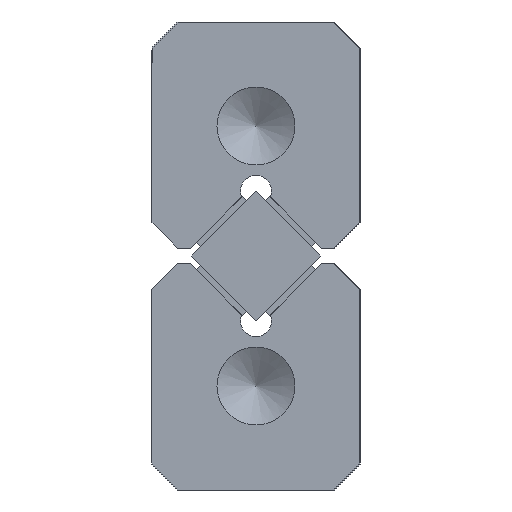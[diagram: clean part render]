
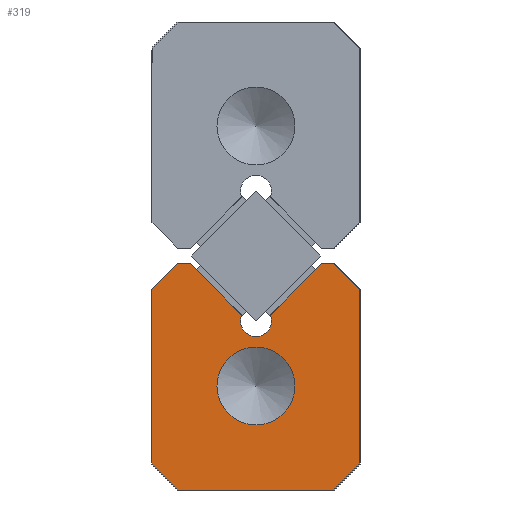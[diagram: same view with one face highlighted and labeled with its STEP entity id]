
A CAD part, left-side view. The second image highlights one B-rep face of the part: STEP entity #319.
In plain terms, the highlighted planar face has unit normal (-1, 0, 0).
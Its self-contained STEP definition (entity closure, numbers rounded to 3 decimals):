
#98=CARTESIAN_POINT('',(0.0,-3.,5.2));
#99=VERTEX_POINT('',#98);
#106=CARTESIAN_POINT('',(0.0,-4.0,4.2));
#107=VERTEX_POINT('',#106);
#108=CARTESIAN_POINT('',(0.0,-3.,5.2));
#109=DIRECTION('',(0.0,-0.707,-0.707));
#110=VECTOR('',#109,1.414);
#111=LINE('',#108,#110);
#112=EDGE_CURVE('',#99,#107,#111,.T.);
#129=CARTESIAN_POINT('',(0.0,-4.0,-2.5));
#130=VERTEX_POINT('',#129);
#131=CARTESIAN_POINT('',(0.0,-4.0,4.2));
#132=DIRECTION('',(0.0,0.0,-1.0));
#133=VECTOR('',#132,6.7);
#134=LINE('',#131,#133);
#135=EDGE_CURVE('',#107,#130,#134,.T.);
#220=CARTESIAN_POINT('',(0.0,0.,0.885));
#221=DIRECTION('',(1.0,0.0,0.0));
#222=DIRECTION('',(0.0,0.0,-1.0));
#223=AXIS2_PLACEMENT_3D('',#220,#221,#222);
#224=PLANE('',#223);
#225=ORIENTED_EDGE('',*,*,#112,.F.);
#226=CARTESIAN_POINT('',(0.0,-2.528,5.2));
#227=VERTEX_POINT('',#226);
#228=CARTESIAN_POINT('',(0.0,-2.528,5.2));
#229=DIRECTION('',(0.0,-1.0,0.0));
#230=VECTOR('',#229,0.472);
#231=LINE('',#228,#230);
#232=EDGE_CURVE('',#227,#99,#231,.T.);
#233=ORIENTED_EDGE('',*,*,#232,.F.);
#234=CARTESIAN_POINT('',(0.0,-0.555,3.227));
#235=VERTEX_POINT('',#234);
#236=CARTESIAN_POINT('',(0.0,-0.555,3.227));
#237=DIRECTION('',(0.0,-0.707,0.707));
#238=VECTOR('',#237,2.79);
#239=LINE('',#236,#238);
#240=EDGE_CURVE('',#235,#227,#239,.T.);
#241=ORIENTED_EDGE('',*,*,#240,.F.);
#242=CARTESIAN_POINT('',(0.0,0.555,3.227));
#243=VERTEX_POINT('',#242);
#244=CARTESIAN_POINT('',(0.0,0.0,3.));
#245=DIRECTION('',(-1.,0.0,0.0));
#246=DIRECTION('',(0.0,0.926,-0.378));
#247=AXIS2_PLACEMENT_3D('',#244,#245,#246);
#248=CIRCLE('',#247,0.6);
#249=EDGE_CURVE('',#243,#235,#248,.T.);
#250=ORIENTED_EDGE('',*,*,#249,.F.);
#251=CARTESIAN_POINT('',(0.0,2.528,5.2));
#252=VERTEX_POINT('',#251);
#253=CARTESIAN_POINT('',(0.0,2.528,5.2));
#254=DIRECTION('',(0.0,-0.707,-0.707));
#255=VECTOR('',#254,2.79);
#256=LINE('',#253,#255);
#257=EDGE_CURVE('',#252,#243,#256,.T.);
#258=ORIENTED_EDGE('',*,*,#257,.F.);
#259=CARTESIAN_POINT('',(0.0,3.,5.2));
#260=VERTEX_POINT('',#259);
#261=CARTESIAN_POINT('',(0.0,3.,5.2));
#262=DIRECTION('',(0.0,-1.0,0.0));
#263=VECTOR('',#262,0.472);
#264=LINE('',#261,#263);
#265=EDGE_CURVE('',#260,#252,#264,.T.);
#266=ORIENTED_EDGE('',*,*,#265,.F.);
#267=CARTESIAN_POINT('',(0.0,4.0,4.2));
#268=VERTEX_POINT('',#267);
#269=CARTESIAN_POINT('',(0.0,4.0,4.2));
#270=DIRECTION('',(0.0,-0.707,0.707));
#271=VECTOR('',#270,1.414);
#272=LINE('',#269,#271);
#273=EDGE_CURVE('',#268,#260,#272,.T.);
#274=ORIENTED_EDGE('',*,*,#273,.F.);
#275=CARTESIAN_POINT('',(0.0,4.0,-2.5));
#276=VERTEX_POINT('',#275);
#277=CARTESIAN_POINT('',(0.0,4.0,-2.5));
#278=DIRECTION('',(0.0,0.0,1.0));
#279=VECTOR('',#278,6.7);
#280=LINE('',#277,#279);
#281=EDGE_CURVE('',#276,#268,#280,.T.);
#282=ORIENTED_EDGE('',*,*,#281,.F.);
#283=CARTESIAN_POINT('',(0.0,3.,-3.5));
#284=VERTEX_POINT('',#283);
#285=CARTESIAN_POINT('',(0.0,3.,-3.5));
#286=DIRECTION('',(0.0,0.707,0.707));
#287=VECTOR('',#286,1.414);
#288=LINE('',#285,#287);
#289=EDGE_CURVE('',#284,#276,#288,.T.);
#290=ORIENTED_EDGE('',*,*,#289,.F.);
#291=CARTESIAN_POINT('',(0.0,-3.,-3.5));
#292=VERTEX_POINT('',#291);
#293=CARTESIAN_POINT('',(0.0,-3.,-3.5));
#294=DIRECTION('',(0.0,1.0,0.0));
#295=VECTOR('',#294,6.);
#296=LINE('',#293,#295);
#297=EDGE_CURVE('',#292,#284,#296,.T.);
#298=ORIENTED_EDGE('',*,*,#297,.F.);
#299=CARTESIAN_POINT('',(0.0,-4.0,-2.5));
#300=DIRECTION('',(0.0,0.707,-0.707));
#301=VECTOR('',#300,1.414);
#302=LINE('',#299,#301);
#303=EDGE_CURVE('',#130,#292,#302,.T.);
#304=ORIENTED_EDGE('',*,*,#303,.F.);
#305=ORIENTED_EDGE('',*,*,#135,.F.);
#306=EDGE_LOOP('',(#225,#233,#241,#250,#258,#266,#274,#282,#290,#298,#304,#305));
#307=FACE_OUTER_BOUND('',#306,.T.);
#308=CARTESIAN_POINT('',(0.0,1.5,0.5));
#309=VERTEX_POINT('',#308);
#310=CARTESIAN_POINT('',(0.0,0.0,0.5));
#311=DIRECTION('',(1.0,0.0,0.0));
#312=DIRECTION('',(0.0,1.0,0.0));
#313=AXIS2_PLACEMENT_3D('',#310,#311,#312);
#314=CIRCLE('',#313,1.5);
#315=EDGE_CURVE('',#309,#309,#314,.T.);
#316=ORIENTED_EDGE('',*,*,#315,.T.);
#317=EDGE_LOOP('',(#316));
#318=FACE_BOUND('',#317,.T.);
#319=ADVANCED_FACE('',(#307,#318),#224,.F.);
